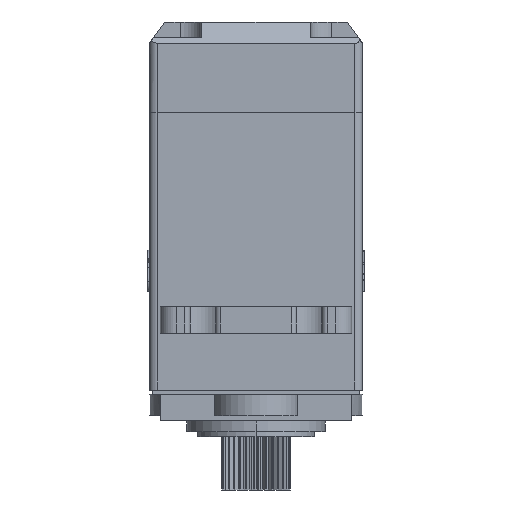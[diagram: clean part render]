
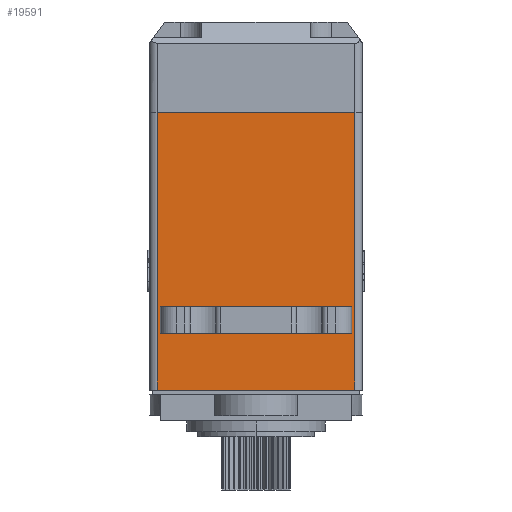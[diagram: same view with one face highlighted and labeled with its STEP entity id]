
A CAD part, left-side view. The second image highlights one B-rep face of the part: STEP entity #19591.
In plain terms, the highlighted planar face has unit normal (-1, 0, 0).
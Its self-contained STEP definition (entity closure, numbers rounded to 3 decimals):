
#161 = CARTESIAN_POINT ( 'NONE',  ( -20.45, -9.3, -6.8 ) ) ;
#420 = VECTOR ( 'NONE', #19854, 1000. ) ;
#684 = ORIENTED_EDGE ( 'NONE', *, *, #4546, .F. ) ;
#761 = AXIS2_PLACEMENT_3D ( 'NONE', #20964, #9317, #19526 ) ;
#1096 = LINE ( 'NONE', #19746, #420 ) ;
#1148 = VECTOR ( 'NONE', #10500, 1000. ) ;
#1615 = DIRECTION ( 'NONE',  ( 0., 0., -1. ) ) ;
#1735 = LINE ( 'NONE', #3805, #1148 ) ;
#1989 = CARTESIAN_POINT ( 'NONE',  ( -20.45, 9.3, -6.8 ) ) ;
#2645 = DIRECTION ( 'NONE',  ( 0., 1., 0. ) ) ;
#2649 = VECTOR ( 'NONE', #1615, 1000. ) ;
#2940 = CARTESIAN_POINT ( 'NONE',  ( -20.45, 9., 1.04 ) ) ;
#2941 = EDGE_CURVE ( 'NONE', #12303, #11020, #1735, .T. ) ;
#3703 = LINE ( 'NONE', #19486, #21118 ) ;
#3805 = CARTESIAN_POINT ( 'NONE',  ( -20.45, 10., 19.3 ) ) ;
#3811 = LINE ( 'NONE', #10731, #18534 ) ;
#4546 = EDGE_CURVE ( 'NONE', #9974, #9124, #3811, .T. ) ;
#5078 = VERTEX_POINT ( 'NONE', #161 ) ;
#5996 = ORIENTED_EDGE ( 'NONE', *, *, #15544, .T. ) ;
#6164 = ORIENTED_EDGE ( 'NONE', *, *, #7765, .F. ) ;
#6260 = CARTESIAN_POINT ( 'NONE',  ( -20.45, -10., -6.8 ) ) ;
#6287 = CARTESIAN_POINT ( 'NONE',  ( -20.45, 9., -1.46 ) ) ;
#6542 = EDGE_CURVE ( 'NONE', #5078, #14920, #12625, .T. ) ;
#6588 = EDGE_LOOP ( 'NONE', ( #684, #6164, #5996, #20795 ) ) ;
#7032 = CARTESIAN_POINT ( 'NONE',  ( -20.45, 9.3, 19.3 ) ) ;
#7765 = EDGE_CURVE ( 'NONE', #14737, #9974, #17969, .T. ) ;
#7810 = VECTOR ( 'NONE', #2645, 1000. ) ;
#9124 = VERTEX_POINT ( 'NONE', #15741 ) ;
#9317 = DIRECTION ( 'NONE',  ( 1., 0., 0. ) ) ;
#9532 = CARTESIAN_POINT ( 'NONE',  ( -20.45, -9., 1.04 ) ) ;
#9867 = EDGE_LOOP ( 'NONE', ( #18465, #18700, #12605, #10751 ) ) ;
#9880 = DIRECTION ( 'NONE',  ( 0., 0., -1. ) ) ;
#9927 = PLANE ( 'NONE',  #761 ) ;
#9974 = VERTEX_POINT ( 'NONE', #6287 ) ;
#10153 = CARTESIAN_POINT ( 'NONE',  ( -20.45, 9.3, 19.3 ) ) ;
#10500 = DIRECTION ( 'NONE',  ( 0., -1., 0. ) ) ;
#10731 = CARTESIAN_POINT ( 'NONE',  ( -20.45, 9., -1.46 ) ) ;
#10751 = ORIENTED_EDGE ( 'NONE', *, *, #2941, .F. ) ;
#11020 = VERTEX_POINT ( 'NONE', #17480 ) ;
#11319 = CARTESIAN_POINT ( 'NONE',  ( -20.45, -9., 1.04 ) ) ;
#12303 = VERTEX_POINT ( 'NONE', #7032 ) ;
#12405 = VECTOR ( 'NONE', #16328, 1000. ) ;
#12605 = ORIENTED_EDGE ( 'NONE', *, *, #17574, .T. ) ;
#12625 = LINE ( 'NONE', #6260, #7810 ) ;
#12830 = FACE_BOUND ( 'NONE', #6588, .T. ) ;
#13016 = EDGE_CURVE ( 'NONE', #12303, #14920, #21697, .T. ) ;
#14737 = VERTEX_POINT ( 'NONE', #15942 ) ;
#14920 = VERTEX_POINT ( 'NONE', #1989 ) ;
#15129 = VECTOR ( 'NONE', #9880, 1000. ) ;
#15544 = EDGE_CURVE ( 'NONE', #14737, #20008, #3703, .T. ) ;
#15741 = CARTESIAN_POINT ( 'NONE',  ( -20.45, -9., -1.46 ) ) ;
#15942 = CARTESIAN_POINT ( 'NONE',  ( -20.45, 9., 1.04 ) ) ;
#16021 = FACE_OUTER_BOUND ( 'NONE', #9867, .T. ) ;
#16328 = DIRECTION ( 'NONE',  ( 0., 0., -1. ) ) ;
#16591 = LINE ( 'NONE', #11319, #15129 ) ;
#17480 = CARTESIAN_POINT ( 'NONE',  ( -20.45, -9.3, 19.3 ) ) ;
#17574 = EDGE_CURVE ( 'NONE', #5078, #11020, #1096, .T. ) ;
#17969 = LINE ( 'NONE', #2940, #12405 ) ;
#18061 = EDGE_CURVE ( 'NONE', #20008, #9124, #16591, .T. ) ;
#18465 = ORIENTED_EDGE ( 'NONE', *, *, #13016, .T. ) ;
#18534 = VECTOR ( 'NONE', #20618, 1000. ) ;
#18700 = ORIENTED_EDGE ( 'NONE', *, *, #6542, .F. ) ;
#18956 = DIRECTION ( 'NONE',  ( 0., -1., 0. ) ) ;
#19486 = CARTESIAN_POINT ( 'NONE',  ( -20.45, 9., 1.04 ) ) ;
#19526 = DIRECTION ( 'NONE',  ( 0., 0., -1. ) ) ;
#19591 = ADVANCED_FACE ( 'NONE', ( #12830, #16021 ), #9927, .F. ) ;
#19746 = CARTESIAN_POINT ( 'NONE',  ( -20.45, -9.3, 19.3 ) ) ;
#19854 = DIRECTION ( 'NONE',  ( 0., 0., 1. ) ) ;
#20008 = VERTEX_POINT ( 'NONE', #9532 ) ;
#20618 = DIRECTION ( 'NONE',  ( 0., -1., 0. ) ) ;
#20795 = ORIENTED_EDGE ( 'NONE', *, *, #18061, .T. ) ;
#20964 = CARTESIAN_POINT ( 'NONE',  ( -20.45, 10., 19.3 ) ) ;
#21118 = VECTOR ( 'NONE', #18956, 1000. ) ;
#21697 = LINE ( 'NONE', #10153, #2649 ) ;
